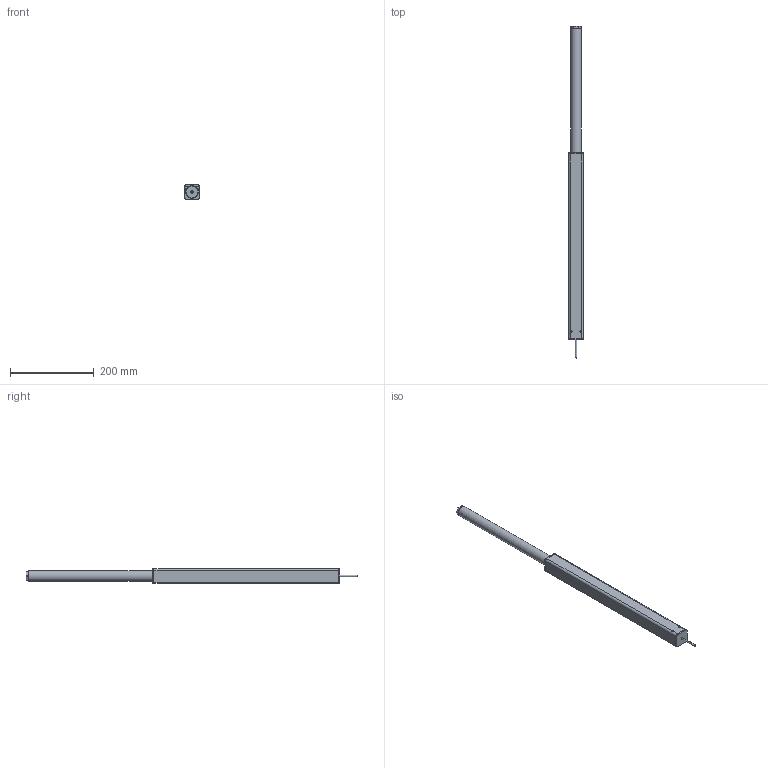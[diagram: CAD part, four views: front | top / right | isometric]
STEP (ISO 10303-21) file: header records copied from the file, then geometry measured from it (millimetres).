
FILE_DESCRIPTION(/* description */ ('Unknown'),/* implementation_level */ '2;1');
FILE_NAME(/* name */ '106.20003 Lineareinheit LA 1830_ausgefahren',/* time_stamp */ '2017-08-24T11:40:23+02:00',/* author */ ('Unknown'),/* organization */ ('Unknown'),/* preprocessor_version */ 'ST-DEVELOPER v16.7',/* originating_system */ 'DEX',/* authorisation */ $);
FILE_SCHEMA (('AP203_CONFIGURATION_CONTROLLED_3D_DESIGN_OF_MECHANICAL_PARTS_AND_ASSEMBLIES_MIM_LF { 1 0 10303 203 3 1 4 }','TECHNICAL_DATA_PACKAGING','AUTOMOTIVE_DESIGN {1 0 10303 214 3 1 1}'));
Products named in the file (9): 106.20003; 119.00003; 142.00014; 115.00008; 142.00011; 122.00018; 125.00051; 123.00003; 113.00002_70mm
Assembly tree (9 placements, depth 2):
  106.20003
    119.00003
    142.00014  x2
    115.00008
    142.00011
    122.00018
    125.00051
    123.00003
    113.00002_70mm
Bounding box: 35 x 790.5 x 35 mm (x, y, z)
Volume: 307049.6 mm3; surface area: 208144.9 mm2
Topology: 8 solids, 8 shells, 776 faces, 1818 edges, 1082 vertices
Faces by surface type: cylinder 273, bspline 224, plane 204, cone 36, torus 27, sphere 12
Full cylindrical faces by diameter (mm): 2.2 x1, 4 x7, 4.134 x4, 5 x1, 6.647 x1, 8.376 x1, 17.3 x1, 19 x1, 20.8 x3, 21 x1, 25 x1, 28.3 x1, 30.4 x1, 30.63 x1
Entity records: 74513 total; most frequent: CARTESIAN_POINT 58862, ORIENTED_EDGE 3422, DIRECTION 2541, EDGE_CURVE 1711, VERTEX_POINT 1037, AXIS2_PLACEMENT_3D 983, EDGE_LOOP 858, FACE_BOUND 858
